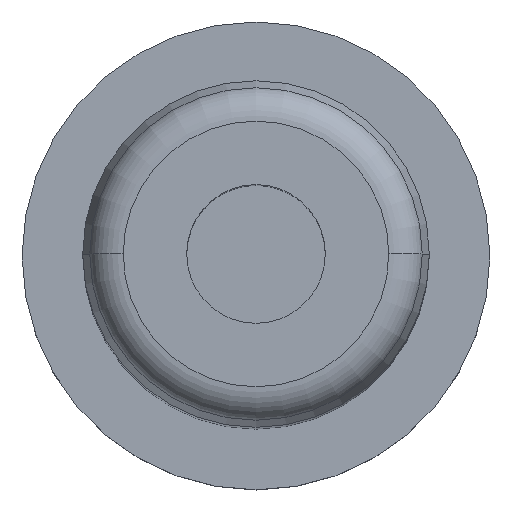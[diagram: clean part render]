
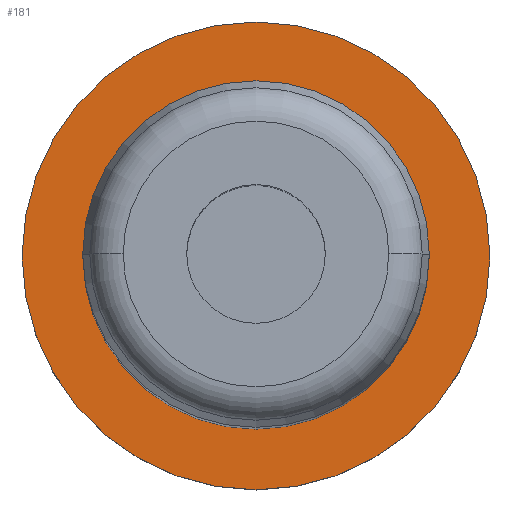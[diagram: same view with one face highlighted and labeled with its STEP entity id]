
A CAD part, top view. The second image highlights one B-rep face of the part: STEP entity #181.
In plain terms, the highlighted planar face has unit normal (0, 0, 1).
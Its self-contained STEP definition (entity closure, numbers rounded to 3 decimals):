
#111=FACE_BOUND('',#244,.T.);
#112=FACE_BOUND('',#245,.T.);
#181=ADVANCED_FACE('',(#111,#112),#201,.T.);
#201=PLANE('',#542);
#244=EDGE_LOOP('',(#311,#312));
#245=EDGE_LOOP('',(#313,#314));
#311=ORIENTED_EDGE('',*,*,#439,.F.);
#312=ORIENTED_EDGE('',*,*,#440,.F.);
#313=ORIENTED_EDGE('',*,*,#438,.T.);
#314=ORIENTED_EDGE('',*,*,#436,.T.);
#393=VERTEX_POINT('',#782);
#394=VERTEX_POINT('',#784);
#395=VERTEX_POINT('',#790);
#396=VERTEX_POINT('',#791);
#436=EDGE_CURVE('',#394,#393,#487,.T.);
#438=EDGE_CURVE('',#393,#394,#488,.T.);
#439=EDGE_CURVE('',#395,#396,#489,.T.);
#440=EDGE_CURVE('',#396,#395,#490,.T.);
#487=CIRCLE('',#536,9.);
#488=CIRCLE('',#538,9.);
#489=CIRCLE('',#540,13.5);
#490=CIRCLE('',#541,13.5);
#536=AXIS2_PLACEMENT_3D('',#783,#637,#638);
#538=AXIS2_PLACEMENT_3D('',#787,#642,#643);
#540=AXIS2_PLACEMENT_3D('',#789,#646,#647);
#541=AXIS2_PLACEMENT_3D('',#792,#648,#649);
#542=AXIS2_PLACEMENT_3D('',#793,#650,#651);
#637=DIRECTION('',(0.,0.,-1.));
#638=DIRECTION('',(0.,1.,0.));
#642=DIRECTION('',(0.,0.,-1.));
#643=DIRECTION('',(0.,-1.,0.));
#646=DIRECTION('',(0.,0.,-1.));
#647=DIRECTION('',(0.,1.,0.));
#648=DIRECTION('',(0.,0.,-1.));
#649=DIRECTION('',(0.,-1.,0.));
#650=DIRECTION('',(0.,0.,1.));
#651=DIRECTION('',(0.,-1.,0.));
#782=CARTESIAN_POINT('',(-9.,0.,5.));
#783=CARTESIAN_POINT('',(0.,0.,5.));
#784=CARTESIAN_POINT('',(9.,0.,5.));
#787=CARTESIAN_POINT('',(0.,0.,5.));
#789=CARTESIAN_POINT('',(0.,0.,5.));
#790=CARTESIAN_POINT('',(13.5,0.,5.));
#791=CARTESIAN_POINT('',(-13.5,0.,5.));
#792=CARTESIAN_POINT('',(0.,0.,5.));
#793=CARTESIAN_POINT('',(0.,0.,5.));
